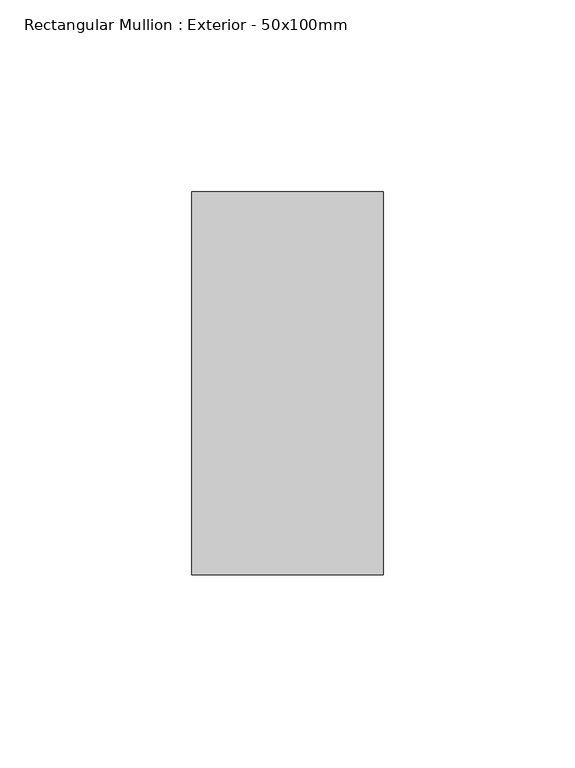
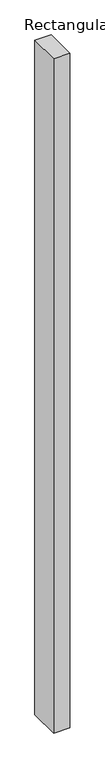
"""IFC4 building model written with IfcOpenShell, lengths in millimetres: member geometry, Rectangular Mullion : Exterior - 50x100mm."""

from ifc_helpers import new_model, si_unit, frame, origin, place, context, project, spatial, polyline, outline, extrude, source, transform, mapped, element, save


def rectangular_mullion_exterior_50x100mm_05d3077b(model_context):
    return source(origin(), model_context, "Body", "SweptSolid", [
        extrude(outline(polyline([(0.0, 100.0), (0.0, 0.0), (-50.0, 0.0), (-50.0, 100.0), (0.0, 100.0)])), frame((0.0, 0.0, -2200.0), z_axis=(0.0, 0.0, 1.0), x_axis=(1.0, 0.0, 0.0)), (0.0, 0.0, 1.0), 2200.0),
    ])


if __name__ == "__main__":
    model = new_model("IFC4")
    model_context = context("Model", 3, world=origin())
    ifc_project = project(units=[si_unit("LENGTHUNIT", "METRE", prefix="MILLI")], contexts=[model_context])
    site = spatial("IfcSite", under=ifc_project)
    building = spatial("IfcBuilding", under=site)
    placement = place(None, origin())
    rectangular_mullion_exterior_50x100mm_shape = rectangular_mullion_exterior_50x100mm_05d3077b(model_context)
    element("IfcMember", 1, ObjectType="Rectangular Mullion : Exterior - 50x100mm", at=placement, inside=building, context=model_context, shape_type="MappedRepresentation", body=[
        mapped(rectangular_mullion_exterior_50x100mm_shape, transform((0.0, 0.0, 0.0), x_axis=(1.0, 0.0, 0.0), y_axis=(0.0, 1.0, 0.0), z_axis=(0.0, 0.0, 1.0))),
    ])
    save(model, "model.ifc")
